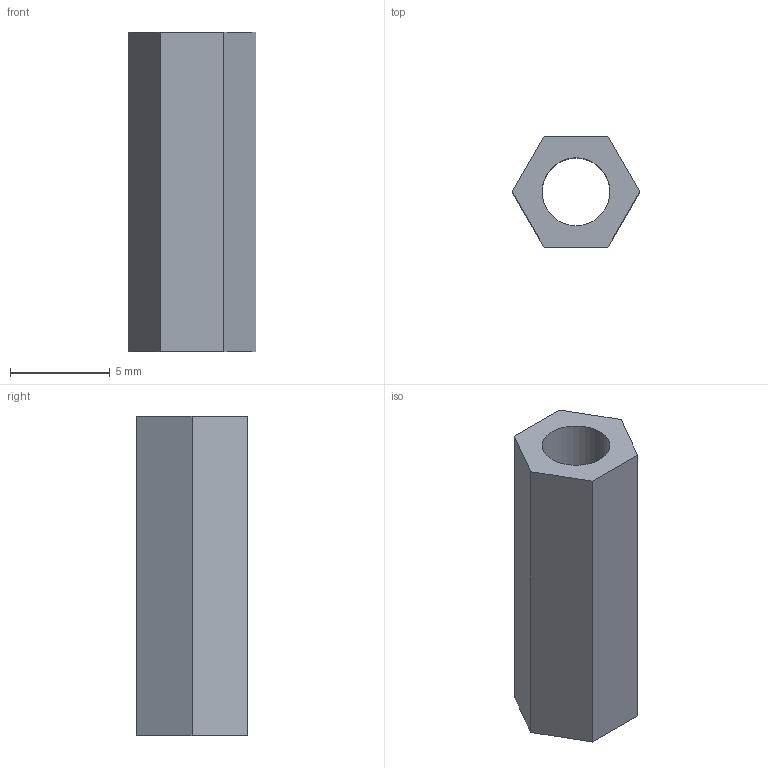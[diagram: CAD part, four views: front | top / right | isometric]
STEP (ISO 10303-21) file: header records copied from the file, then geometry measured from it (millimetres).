
FILE_DESCRIPTION(('Open CASCADE Model'),'2;1');
FILE_NAME('Open CASCADE Shape Model','2026-11-11T19:28:18',('Author'),( 'Open CASCADE'),'Open CASCADE STEP processor 7.9','Open CASCADE 7.9' ,'Unknown');
FILE_SCHEMA(('AUTOMOTIVE_DESIGN { 1 0 10303 214 1 1 1 1 }'));
Length unit declared in the file: millimetre
Products named in the file (1): Open CASCADE STEP translator 7.9 14
Bounding box: 6.4 x 5.54 x 16 mm (x, y, z)
Volume: 280.4 mm3; surface area: 513.2 mm2
Topology: 1 solids, 1 shells, 9 faces, 21 edges, 14 vertices
Faces by surface type: plane 8, cylinder 1
Full cylindrical faces by diameter (mm): 3.4 x1
Entity records: 550 total; most frequent: CARTESIAN_POINT 99, DIRECTION 83, LINE 59, VECTOR 59, ORIENTED_EDGE 42, PCURVE 42, DEFINITIONAL_REPRESENTATION 42, EDGE_CURVE 21
